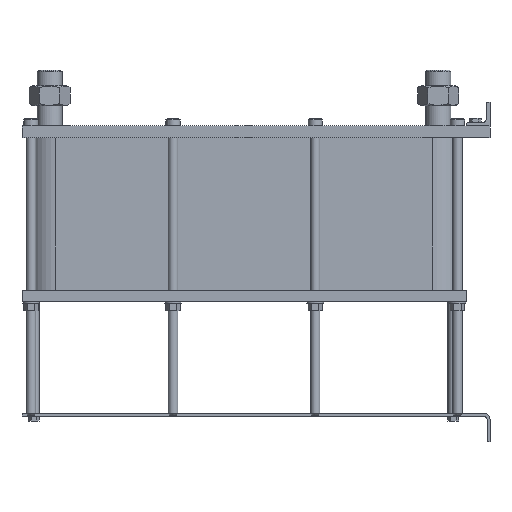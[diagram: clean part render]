
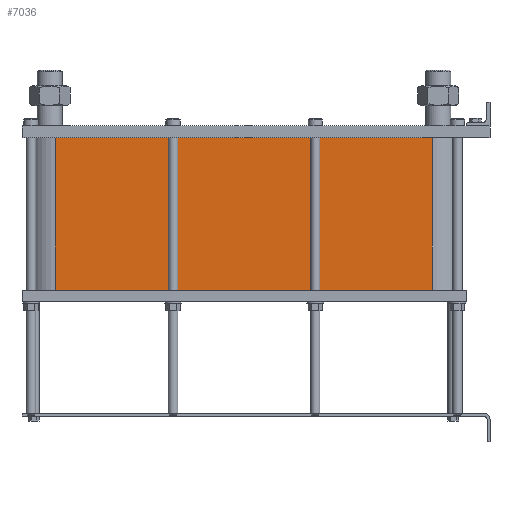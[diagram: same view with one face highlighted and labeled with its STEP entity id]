
A CAD part, left-side view. The second image highlights one B-rep face of the part: STEP entity #7036.
In plain terms, the highlighted planar face has unit normal (-1, 0, 0).
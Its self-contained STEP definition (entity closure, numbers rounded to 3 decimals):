
#999=LINE('',#15640,#1553);
#1031=LINE('',#15723,#1585);
#1032=LINE('',#15726,#1586);
#1033=LINE('',#15727,#1587);
#1553=VECTOR('',#9658,10.);
#1585=VECTOR('',#9736,10.);
#1586=VECTOR('',#9741,10.);
#1587=VECTOR('',#9742,10.);
#2117=FACE_OUTER_BOUND('',#2671,.T.);
#2671=EDGE_LOOP('',(#6246,#6247,#6248,#6249));
#3527=VERTEX_POINT('',#15634);
#3529=VERTEX_POINT('',#15638);
#3556=VERTEX_POINT('',#15720);
#3557=VERTEX_POINT('',#15722);
#4425=EDGE_CURVE('',#3529,#3527,#999,.T.);
#4466=EDGE_CURVE('',#3557,#3556,#1031,.T.);
#4468=EDGE_CURVE('',#3527,#3556,#1032,.T.);
#4469=EDGE_CURVE('',#3557,#3529,#1033,.T.);
#6246=ORIENTED_EDGE('',*,*,#4468,.F.);
#6247=ORIENTED_EDGE('',*,*,#4425,.F.);
#6248=ORIENTED_EDGE('',*,*,#4469,.F.);
#6249=ORIENTED_EDGE('',*,*,#4466,.T.);
#6608=PLANE('',#7812);
#7036=ADVANCED_FACE('',(#2117),#6608,.T.);
#7812=AXIS2_PLACEMENT_3D('',#15725,#9739,#9740);
#9658=DIRECTION('',(0.,0.,-1.));
#9736=DIRECTION('',(0.,0.,-1.));
#9739=DIRECTION('center_axis',(-1.,0.,0.));
#9740=DIRECTION('ref_axis',(0.,1.,0.));
#9741=DIRECTION('',(0.,1.,0.));
#9742=DIRECTION('',(0.,-1.,0.));
#15634=CARTESIAN_POINT('',(-72.,97.5,-257.3));
#15638=CARTESIAN_POINT('',(-72.,97.5,0.));
#15640=CARTESIAN_POINT('',(-72.,97.5,0.));
#15720=CARTESIAN_POINT('',(-72.,733.5,-257.3));
#15722=CARTESIAN_POINT('',(-72.,733.5,0.));
#15723=CARTESIAN_POINT('',(-72.,733.5,0.));
#15725=CARTESIAN_POINT('Origin',(-72.,97.5,0.));
#15726=CARTESIAN_POINT('',(-72.,256.5,-257.3));
#15727=CARTESIAN_POINT('',(-72.,733.5,0.));
